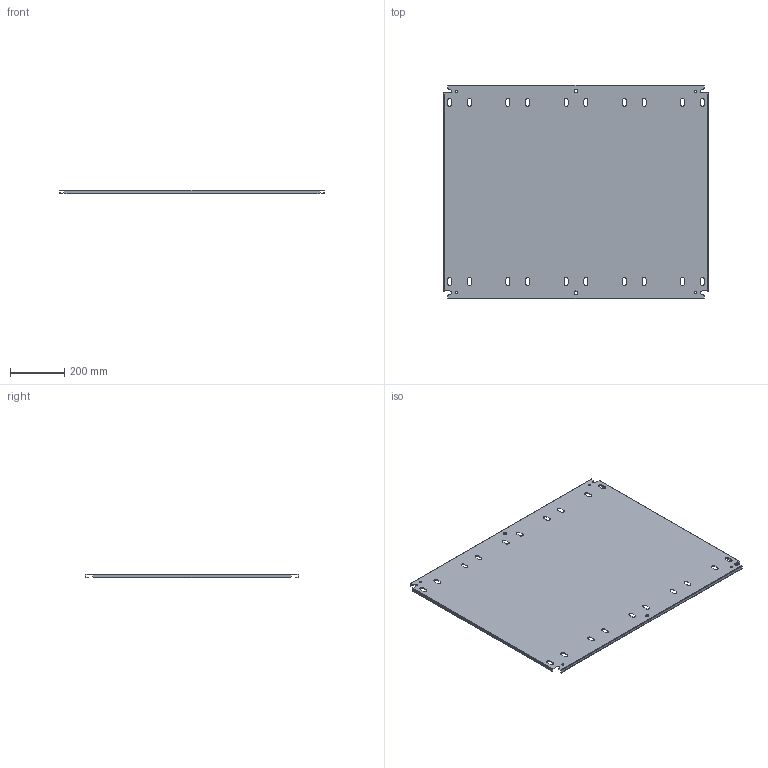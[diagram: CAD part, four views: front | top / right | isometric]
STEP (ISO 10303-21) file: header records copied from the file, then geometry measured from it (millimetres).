
FILE_DESCRIPTION(/* description */ ('1412BTCU 38.425" x 31" Left Inner Panel'),/* implementation_level */ '2;1');
FILE_NAME(/* name */ 'C:\Vault_Workspace\Inventor_Dwg\BoxCad\Result\1412BTCU102505\e-mail\3D\1412BTCU102505IP1.stp',/* time_stamp */ '2022-09-21T20:44:22-04:00',/* author */ ('BoxCad'),/* organization */ (''),/* preprocessor_version */ 'ST-DEVELOPER v18.1',/* originating_system */ 'Autodesk Inventor 2020',/* authorisation */ '');
FILE_SCHEMA (('AUTOMOTIVE_DESIGN { 1 0 10303 214 3 1 1 }'));
Length unit declared in the file: inch
Products named in the file (2): 1412BTCU102505IP1; 1412BTCU102505IP1-P
Assembly tree (1 placements, depth 2):
  1412BTCU102505IP1
    1412BTCU102505IP1-P
Bounding box: 976 x 787.4 x 13 mm (x, y, z)
Volume: 1415775 mm3; surface area: 1648825.5 mm2
Topology: 1 solids, 1 shells, 200 faces, 594 edges, 396 vertices
Faces by surface type: plane 110, cylinder 90
Full cylindrical faces by diameter (mm): 7.366 x4, 12.7 x2
Entity records: 6911 total; most frequent: CARTESIAN_POINT 1193, ORIENTED_EDGE 1188, DIRECTION 1180, EDGE_CURVE 594, LINE 414, VECTOR 414, VERTEX_POINT 396, AXIS2_PLACEMENT_3D 383
